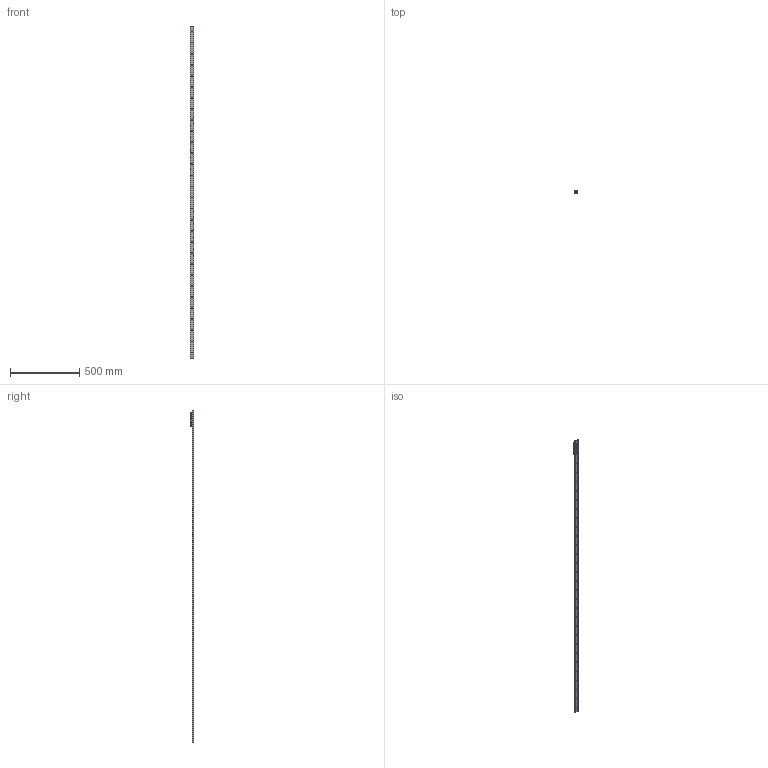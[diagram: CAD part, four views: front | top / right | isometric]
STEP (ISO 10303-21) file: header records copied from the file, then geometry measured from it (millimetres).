
FILE_DESCRIPTION( ( 'STEP AP214' ), '1' );
FILE_NAME( 'p:/temp/worker_33/temp/exporttempdir_660_533_7PJDV/format_1/TGV-02400_1_RV28G-3.stp', '2020-11-20T16:41:23', ( 'License CC BY-ND 4.0' ), ( 'CADENAS' ), ' ', 'PARTsolutions', ' ' );
FILE_SCHEMA( ( 'AUTOMOTIVE_DESIGN { 1 0 10303 214 1 1 1 1 }' ) );
Length unit declared in the file: millimetre
Products named in the file (6): TGV-02400/1/RV28G-3; _TGV28-2400-(3-1); _RV28G-3-slider; _RGNV28R; _RGAV28R; _WR28G-01
Assembly tree (7 placements, depth 2):
  TGV-02400/1/RV28G-3
    _TGV28-2400-(3-1)
    _RV28G-3-slider
    _RGNV28R  x2
    _RGAV28R
    _WR28G-01  x2
Bounding box: 28 x 24 x 2400 mm (x, y, z)
Volume: 383002.2 mm3; surface area: 245797.1 mm2
Topology: 7 solids, 7 shells, 1072 faces, 2795 edges, 1819 vertices
Faces by surface type: plane 657, cylinder 310, cone 70, bspline 26, torus 9
Full cylindrical faces by diameter (mm): 1.27 x4, 2 x2, 2.5 x6, 4 x4, 4.134 x4, 4.2 x3, 5 x3, 5.5 x3, 5.75 x30, 7 x5, 7.5 x1, 8 x6, 10.8 x3, 17 x3, 20.75 x6
Entity records: 26151 total; most frequent: CARTESIAN_POINT 4115, DIRECTION 3500, ORIENTED_EDGE 3174, EDGE_CURVE 1587, AXIS2_PLACEMENT_3D 1355, VERTEX_POINT 1119, EDGE_LOOP 971, LINE 790
